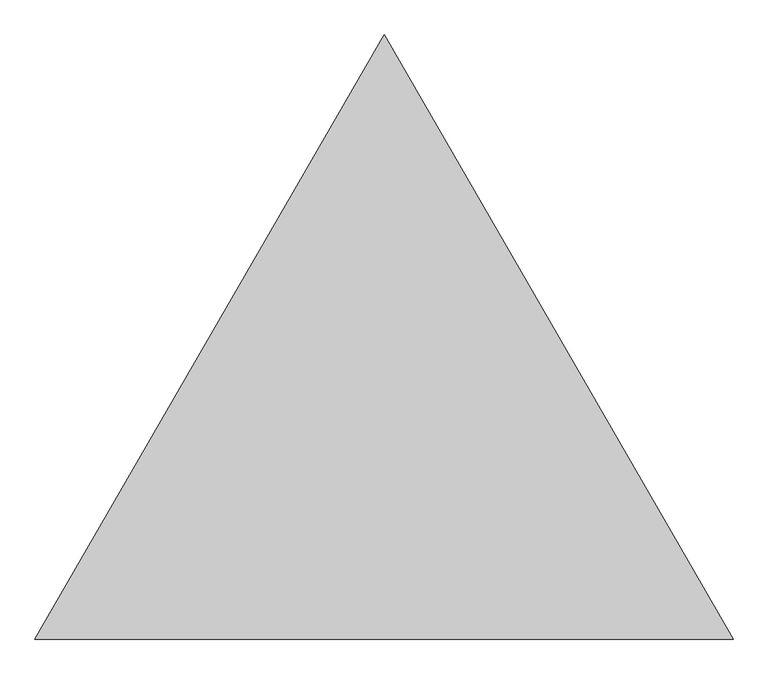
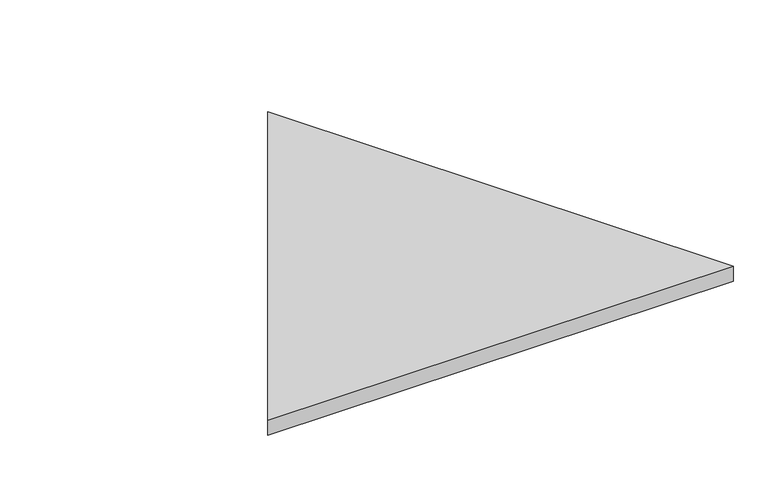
"""IFC4 building model written with IfcOpenShell, lengths in millimetres: proxy geometry, Rockfon Triangle 1160 x 1160 : Rockfon Eclipse Traingle Ceiling 1160 x 1160 mm."""

from ifc_helpers import new_model, si_unit, point, frame, frame_2d, origin, place, context, project, spatial, polyline, circle_curve, trimmed, segment, composite_curve, outline, extrude, source, transform, mapped, element, save


def specialty_equipment_e61d688f(model_context):
    return source(origin(), model_context, "Body", "SweptSolid", [
        extrude(outline(polyline([(580.0, -580.0), (-580.0, -580.0), (0.0, 424.5894684), (580.0, -580.0)])), frame((0.0, 0.0, 50.0), z_axis=(0.0, 0.0, 1.0), x_axis=(1.0, 0.0, 0.0)), (0.0, 0.0, 1.0), 40.0),
        extrude(outline(composite_curve([segment(trimmed(circle_curve(frame_2d((0.0, 209.9476175)), 3.0), [point((-3.0, 209.9476175))], [point((3.0, 209.9476175))], False, "CARTESIAN"), True, "CONTINUOUS"), segment(trimmed(circle_curve(frame_2d((0.0, 209.9476175)), 3.0), [point((3.0, 209.9476175))], [point((-3.0, 209.9476175))], False, "CARTESIAN"), True, "CONTINUOUS")], self_intersect=False)), frame((0.0, 0.0, -1.0), z_axis=(0.0, 0.0, 1.0), x_axis=(1.0, 0.0, 0.0)), (0.0, 0.0, 1.0), 51.0),
        extrude(outline(composite_curve([segment(trimmed(circle_curve(frame_2d((-409.6497358, -510.994197)), 3.0), [point((-412.6497358, -510.994197))], [point((-406.6497358, -510.994197))], False, "CARTESIAN"), True, "CONTINUOUS"), segment(trimmed(circle_curve(frame_2d((-409.6497358, -510.994197)), 3.0), [point((-406.6497358, -510.994197))], [point((-412.6497358, -510.994197))], False, "CARTESIAN"), True, "CONTINUOUS")], self_intersect=False)), frame((0.0, 0.0, -1.0), z_axis=(0.0, 0.0, 1.0), x_axis=(1.0, 0.0, 0.0)), (0.0, 0.0, 1.0), 51.0),
        extrude(outline(composite_curve([segment(trimmed(circle_curve(frame_2d((410.3502642, -510.994197)), 3.0), [point((407.3502642, -510.994197))], [point((413.3502642, -510.994197))], False, "CARTESIAN"), True, "CONTINUOUS"), segment(trimmed(circle_curve(frame_2d((410.3502642, -510.994197)), 3.0), [point((413.3502642, -510.994197))], [point((407.3502642, -510.994197))], False, "CARTESIAN"), True, "CONTINUOUS")], self_intersect=False)), frame((0.0, 0.0, -1.0), z_axis=(0.0, 0.0, 1.0), x_axis=(1.0, 0.0, 0.0)), (0.0, 0.0, 1.0), 51.0),
    ])


if __name__ == "__main__":
    model = new_model("IFC4")
    model_context = context("Model", 3, world=origin())
    ifc_project = project(units=[si_unit("LENGTHUNIT", "METRE", prefix="MILLI")], contexts=[model_context])
    site = spatial("IfcSite", under=ifc_project)
    building = spatial("IfcBuilding", under=site)
    placement = place(None, origin())
    specialty_equipment_shape = specialty_equipment_e61d688f(model_context)
    element("IfcBuildingElementProxy", 1, Name="Rockfon Triangle 1160 x 1160 : Rockfon Eclipse Traingle Ceiling 1160 x 1160 mm", ObjectType="Rockfon Triangle 1160 x 1160 : Rockfon Eclipse Traingle Ceiling 1160 x 1160 mm", at=placement, inside=building, context=model_context, shape_type="MappedRepresentation", body=[
        mapped(specialty_equipment_shape, transform((0.0, 0.0, 0.0), x_axis=(1.0, 0.0, 0.0), y_axis=(0.0, 1.0, 0.0), z_axis=(0.0, 0.0, 1.0))),
    ])
    save(model, "model.ifc")
